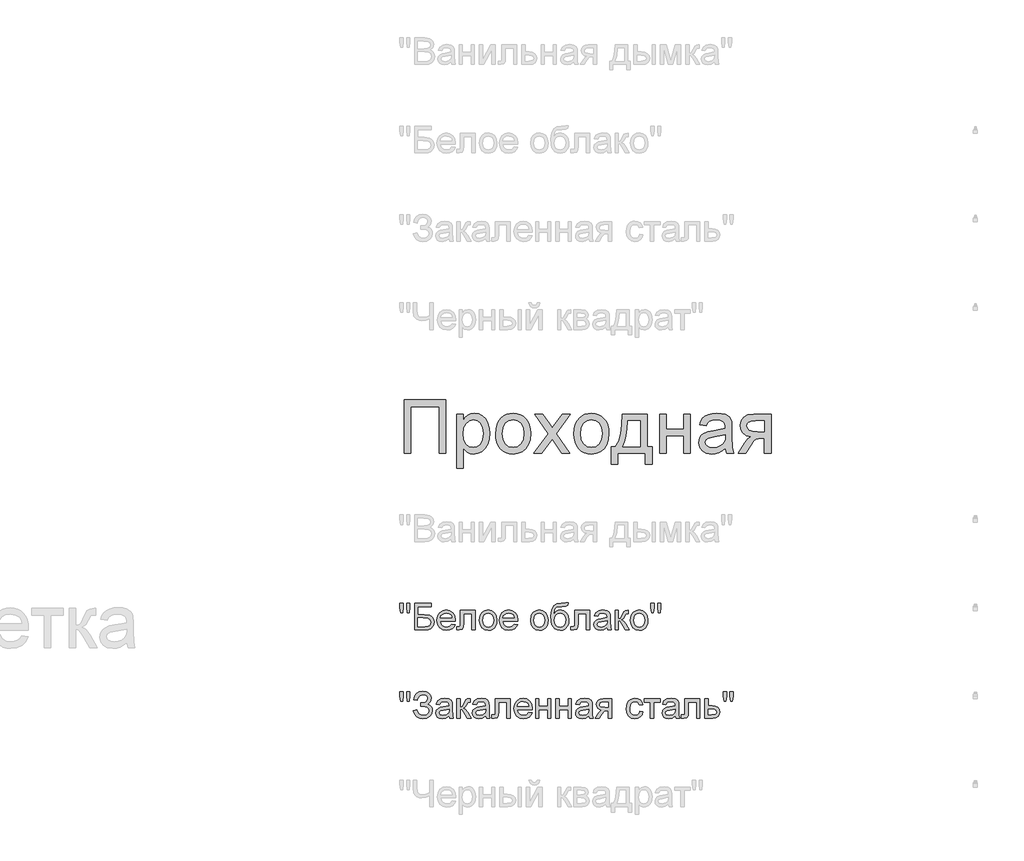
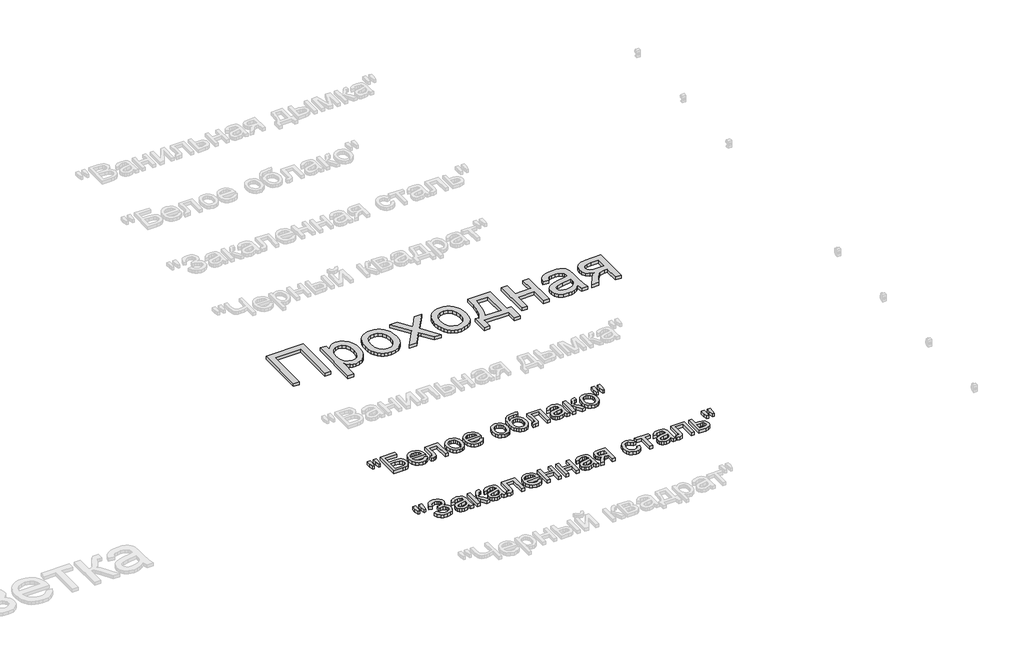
# One storey, part 23 of 168: 3 proxies.
"""IFC4 building model written with IfcOpenShell, lengths in millimetres."""

from ifc_helpers import new_model, si_unit, origin, origin_with_axes, place, context, project, spatial, polyline, outline, extrude, element, save

model = new_model("IFC4")

# Units and contexts
model_context = context("Model", 3, world=origin())
ifc_project = project(units=[si_unit("LENGTHUNIT", "METRE", prefix="MILLI")], contexts=[model_context])

# Site, building, storey
site = spatial("IfcSite", under=ifc_project)
building = spatial("IfcBuilding", under=site)
storey = spatial("IfcBuildingStorey", under=building, Name="Этаж 01", Elevation=0.0)

# Proxies
placement = place(None, origin())
element("IfcBuildingElementProxy", 1, Name="300 мм Arial 2", ObjectType="300 мм Arial 2", at=placement, inside=storey, context=model_context, shape_type="SweptSolid", body=[
    extrude(outline(polyline([(54408.7231967, -53165.4933673), (54644.1676736, -53165.4933673), (54644.1676736, -53466.8622977), (54606.4965573, -53466.8622977), (54606.4965573, -53203.1644836), (54446.394313, -53203.1644836), (54446.394313, -53466.8622977), (54408.7231967, -53466.8622977), (54408.7231967, -53165.4933673)])), origin_with_axes(), (0.0, 0.0, 1.0), 20.0),
    extrude(outline(polyline([(54705.3832376, -53551.6223094), (54705.3832376, -53245.5444894), (54743.0543539, -53245.5444894), (54743.0543539, -53282.4798418), (54755.3416125, -53264.2604859), (54769.1003992, -53251.2466604), (54785.1400541, -53243.438365), (54804.2699179, -53240.8355999), (54829.7457461, -53244.4776316), (54852.0210009, -53255.4037269), (54870.1575832, -53272.9516981), (54883.2173941, -53296.4593576), (54891.1084629, -53324.2160541), (54893.7388191, -53354.5111364), (54890.768172, -53386.7284021), (54881.8562307, -53415.5427594), (54867.2881037, -53439.4918773), (54847.3488995, -53457.1134249), (54824.1263486, -53467.9567467), (54799.7081812, -53471.5711873), (54782.3901362, -53469.1523632), (54766.9298954, -53461.8958908), (54753.6953406, -53450.9422044), (54743.0543539, -53437.4317381), (54743.0543539, -53551.6223094), (54705.3832376, -53551.6223094)]), holes=[polyline([(54743.0543539, -53357.9692272), (54747.128647, -53391.7407943), (54759.3515263, -53415.3588184), (54777.3869411, -53429.2647578), (54798.8988408, -53433.900071), (54820.7602283, -53429.0992109), (54839.2554956, -53414.6966308), (54851.864651, -53390.214084), (54856.0677028, -53355.173324), (54851.9658186, -53321.5856978), (54839.6601658, -53297.63658), (54821.6523422, -53283.2891821), (54800.4439451, -53278.5067162), (54779.1527747, -53283.5926848), (54760.4551723, -53298.8505905), (54747.4045585, -53323.8021869), (54743.0543539, -53357.9692272)])]), origin_with_axes(), (0.0, 0.0, 1.0), 20.0),
    extrude(outline(polyline([(54926.7010459, -53356.2033936), (54928.7381924, -53327.5407876), (54934.8496321, -53302.8421102), (54945.0353648, -53282.1073612), (54959.2953907, -53265.3365408), (54973.6519855, -53254.6173791), (54989.4985025, -53246.9608351), (55006.8349415, -53242.3669087), (55025.6613026, -53240.8355999), (55046.4443361, -53242.7003018), (55065.2362082, -53248.2944073), (55082.0369191, -53257.6179167), (55096.8464687, -53270.6708297), (55108.9336915, -53287.0116881), (55117.567422, -53306.1990334), (55122.7476604, -53328.2328656), (55124.4744065, -53353.1131848), (55121.4209859, -53391.1705772), (55112.2607243, -53420.1412843), (55097.2603359, -53441.837125), (55076.6865353, -53458.069918), (55052.2499738, -53468.19587), (55025.6613026, -53471.5711873), (55004.5747665, -53469.7133832), (54985.6081504, -53464.139971), (54968.7614542, -53454.8509506), (54954.0346781, -53441.8463221), (54942.076214, -53425.3468146), (54933.5344539, -53405.5731573), (54928.4093979, -53382.5253503), (54926.7010459, -53356.2033936)]), holes=[polyline([(54964.3721622, -53356.1298172), (54968.7315638, -53390.2232811), (54981.8097688, -53414.5126898), (55001.4914555, -53429.0532257), (55025.6613026, -53433.900071), (55049.7207851, -53429.0256345), (55069.3656836, -53414.4023252), (55082.4438885, -53389.7910197), (55086.8032902, -53354.9525948), (55082.4162974, -53321.8524123), (55069.255319, -53297.8940973), (55049.5828293, -53283.3535615), (55025.6613026, -53278.5067162), (55001.4914555, -53283.3351674), (54981.8097688, -53297.820521), (54968.7315638, -53322.0547474), (54964.3721622, -53356.1298172)])]), origin_with_axes(), (0.0, 0.0, 1.0), 20.0),
    extrude(outline(polyline([(55143.3099646, -53466.8622977), (55223.8025452, -53355.6147824), (55148.0188542, -53245.5444894), (55193.341916, -53245.5444894), (55229.9093863, -53298.5194967), (55246.9791109, -53323.5354724), (55261.7679671, -53303.0812335), (55303.4122089, -53245.5444894), (55348.7352708, -53245.5444894), (55269.125607, -53355.6147824), (55345.7922148, -53466.8622977), (55300.469153, -53466.8622977), (55254.3367508, -53399.981351), (55245.8754649, -53387.7676688), (55188.6330265, -53466.8622977), (55143.3099646, -53466.8622977)])), origin_with_axes(), (0.0, 0.0, 1.0), 20.0),
    extrude(outline(polyline([(55369.3366625, -53356.2033936), (55371.373809, -53327.5407876), (55377.4852487, -53302.8421102), (55387.6709814, -53282.1073612), (55401.9310073, -53265.3365408), (55416.2876021, -53254.6173791), (55432.1341191, -53246.9608351), (55449.4705581, -53242.3669087), (55468.2969192, -53240.8355999), (55489.0799527, -53242.7003018), (55507.8718248, -53248.2944073), (55524.6725357, -53257.6179167), (55539.4820853, -53270.6708297), (55551.5693081, -53287.0116881), (55560.2030386, -53306.1990334), (55565.383277, -53328.2328656), (55567.1100231, -53353.1131848), (55564.0566025, -53391.1705772), (55554.8963409, -53420.1412843), (55539.8959525, -53441.837125), (55519.3221519, -53458.069918), (55494.8855904, -53468.19587), (55468.2969192, -53471.5711873), (55447.2103831, -53469.7133832), (55428.243767, -53464.139971), (55411.3970708, -53454.8509506), (55396.6702947, -53441.8463221), (55384.7118306, -53425.3468146), (55376.1700705, -53405.5731573), (55371.0450145, -53382.5253503), (55369.3366625, -53356.2033936)]), holes=[polyline([(55407.0077788, -53356.1298172), (55411.3671804, -53390.2232811), (55424.4453854, -53414.5126898), (55444.1270721, -53429.0532257), (55468.2969192, -53433.900071), (55492.3564017, -53429.0256345), (55512.0013002, -53414.4023252), (55525.0795051, -53389.7910197), (55529.4389068, -53354.9525948), (55525.051914, -53321.8524123), (55511.8909356, -53297.8940973), (55492.2184459, -53283.3535615), (55468.2969192, -53278.5067162), (55444.1270721, -53283.3351674), (55424.4453854, -53297.820521), (55411.3671804, -53322.0547474), (55407.0077788, -53356.1298172)])]), origin_with_axes(), (0.0, 0.0, 1.0), 20.0),
    extrude(outline(polyline([(55642.4522557, -53245.5444894), (55783.7189419, -53245.5444894), (55783.7189419, -53429.1911814), (55811.9722791, -53429.1911814), (55811.9722791, -53528.0778617), (55774.3011628, -53528.0778617), (55774.3011628, -53466.8622977), (55618.907808, -53466.8622977), (55618.907808, -53528.0778617), (55581.2366917, -53528.0778617), (55581.2366917, -53429.1911814), (55604.7811394, -53429.1911814), (55621.8968492, -53398.2615027), (55633.8806052, -53357.3438278), (55640.7324074, -53306.4381567), (55642.4522557, -53245.5444894)]), holes=[polyline([(55675.4144825, -53283.2156057), (55672.3242737, -53329.3388109), (55666.5853146, -53369.0424752), (55658.1976051, -53402.3265987), (55647.1611452, -53429.1911814), (55746.0478255, -53429.1911814), (55746.0478255, -53283.2156057), (55675.4144825, -53283.2156057)])]), origin_with_axes(), (0.0, 0.0, 1.0), 20.0),
    extrude(outline(polyline([(55854.3522849, -53245.5444894), (55892.0234012, -53245.5444894), (55892.0234012, -53330.3045011), (55990.9100815, -53330.3045011), (55990.9100815, -53245.5444894), (56028.5811978, -53245.5444894), (56028.5811978, -53466.8622977), (55990.9100815, -53466.8622977), (55990.9100815, -53367.9756174), (55892.0234012, -53367.9756174), (55892.0234012, -53466.8622977), (55854.3522849, -53466.8622977), (55854.3522849, -53245.5444894)])), origin_with_axes(), (0.0, 0.0, 1.0), 20.0),
    extrude(outline(polyline([(56226.3545584, -53438.6089605), (56208.3559318, -53454.0416102), (56189.8238763, -53464.139971), (56170.3353276, -53469.7133832), (56149.4672215, -53471.5711873), (56117.9857197, -53467.101421), (56094.7631688, -53453.6921223), (56080.4433621, -53433.3298539), (56075.6700932, -53408.0011785), (56077.472715, -53392.3845878), (56082.8805803, -53378.2027369), (56091.2223046, -53366.0626311), (56101.8265031, -53356.5712756), (56128.2036421, -53344.2104405), (56160.7979869, -53338.5450578), (56199.3152318, -53332.5853695), (56226.1338293, -53325.5956116), (56226.3545584, -53317.2079021), (56223.7609904, -53300.3956949), (56215.9802862, -53289.3960233), (56198.5794678, -53281.229043), (56174.3360443, -53278.5067162), (56151.8952426, -53280.318535), (56136.2234696, -53285.7539915), (56125.5364977, -53295.806367), (56118.0500991, -53311.468943), (56080.3789828, -53306.7600534), (56086.9180852, -53286.1586617), (56096.6761551, -53269.9718539), (56110.5637005, -53257.5926248), (56129.4912291, -53248.413969), (56152.6402037, -53242.7301922), (56179.1920867, -53240.8355999), (56204.6587178, -53242.509463), (56224.8462423, -53247.5310522), (56240.0673598, -53255.0818302), (56250.6347701, -53264.3432594), (56257.6429221, -53275.7935865), (56262.1862648, -53289.9110581), (56264.0256748, -53322.8732848), (56264.0256748, -53369.741451), (56265.9386611, -53435.1876579), (56273.4434538, -53466.8622977), (56235.7723375, -53466.8622977), (56226.3545584, -53438.6089605)]), holes=[polyline([(56226.3545584, -53363.2667279), (56165.5804528, -53374.8182225), (56133.1700491, -53380.9250637), (56118.4915575, -53390.8578775), (56113.3412095, -53405.3524281), (56116.1463097, -53416.5544349), (56124.5616104, -53425.7330907), (56138.4031705, -53431.8583259), (56157.487049, -53433.900071), (56177.7205587, -53431.6467937), (56195.5996237, -53424.8869621), (56210.0941743, -53414.9265571), (56220.1741409, -53403.0715598), (56224.6439072, -53390.8578775), (56226.1338293, -53373.9353058), (56226.3545584, -53363.2667279)])]), origin_with_axes(), (0.0, 0.0, 1.0), 20.0),
    extrude(outline(polyline([(56485.3434831, -53245.5444894), (56485.3434831, -53466.8622977), (56447.6723667, -53466.8622977), (56447.6723667, -53382.102286), (56427.1445514, -53382.102286), (56399.1855198, -53386.884752), (56388.0203012, -53397.3142065), (56372.9187453, -53419.0376384), (56342.8995745, -53466.8622977), (56299.3423463, -53466.8622977), (56337.1606154, -53406.3824977), (56353.862458, -53384.67746), (56369.2399254, -53375.0389517), (56343.4881857, -53367.1478829), (56325.3883916, -53352.1566916), (56314.6830255, -53332.2174875), (56311.1145701, -53309.4823802), (56315.9890066, -53283.6938523), (56330.6123159, -53263.2764016), (56354.4694633, -53249.9774675), (56387.0454139, -53245.5444894), (56485.3434831, -53245.5444894)]), holes=[polyline([(56447.6723667, -53283.2156057), (56398.0082974, -53283.2156057), (56372.3577253, -53285.3953066), (56357.7987953, -53291.934409), (56351.0389637, -53301.3981734), (56348.7856864, -53312.3518598), (56352.1058215, -53326.7084546), (56362.0662265, -53336.6688596), (56380.4695233, -53342.4905922), (56409.1183337, -53344.4311697), (56447.6723667, -53344.4311697), (56447.6723667, -53283.2156057)])]), origin_with_axes(), (0.0, 0.0, 1.0), 20.0),
])
element("IfcBuildingElementProxy", 2, Name="150", ObjectType="150", at=placement, inside=storey, context=model_context, shape_type="SweptSolid", body=[
    extrude(outline(polyline([(54389.7772739, -54370.3300622), (54385.178749, -54341.2305964), (54385.178749, -54316.1778325), (54404.0143071, -54316.1778325), (54404.0143071, -54341.2305964), (54399.8940288, -54370.3300622), (54389.7772739, -54370.3300622)])), origin_with_axes(), (0.0, 0.0, 1.0), 20.0),
    extrude(outline(polyline([(54427.3380256, -54370.3300622), (54422.8498653, -54341.2305964), (54422.8498653, -54316.1778325), (54441.6854234, -54316.1778325), (54441.6854234, -54341.2305964), (54437.2708395, -54370.3300622), (54427.3380256, -54370.3300622)])), origin_with_axes(), (0.0, 0.0, 1.0), 20.0),
    extrude(outline(polyline([(54467.5843159, -54316.1778325), (54561.7621067, -54316.1778325), (54561.7621067, -54335.0133907), (54486.4198741, -54335.0133907), (54486.4198741, -54379.7478413), (54521.6997574, -54379.7478413), (54552.785786, -54383.573814), (54563.1876494, -54389.101241), (54571.2902503, -54398.0315764), (54576.5049776, -54409.5278888), (54578.2432201, -54422.7532465), (54573.2952072, -54444.2191609), (54558.5247451, -54460.5347274), (54545.2534021, -54465.2804052), (54525.0842718, -54466.8622977), (54467.5843159, -54466.8622977), (54467.5843159, -54316.1778325)]), holes=[polyline([(54486.4198741, -54448.0267396), (54526.7765289, -54448.0267396), (54541.0411533, -54446.4724382), (54551.2406816, -54441.8095339), (54557.3659168, -54434.0380267), (54559.4076619, -54423.1579167), (54554.7355606, -54408.4058487), (54541.730932, -54400.533174), (54513.3488361, -54398.5833994), (54486.4198741, -54398.5833994), (54486.4198741, -54448.0267396)])]), origin_with_axes(), (0.0, 0.0, 1.0), 20.0),
    extrude(outline(polyline([(54679.2636159, -54433.900071), (54697.7312921, -54436.2545157), (54691.0772265, -54450.1696522), (54680.4592324, -54460.5715156), (54666.1164331, -54467.0554358), (54648.2879519, -54469.2167425), (54626.1874411, -54465.4873388), (54609.1820959, -54454.2991276), (54598.338774, -54436.3786759), (54594.7243334, -54412.4525506), (54598.3755622, -54387.7216835), (54609.3292486, -54369.2264162), (54626.1046676, -54357.6933157), (54647.2210942, -54353.8489488), (54667.6799316, -54357.6841186), (54684.0276878, -54369.189628), (54694.7468494, -54387.6481071), (54698.3199033, -54412.342186), (54698.2095387, -54417.4189576), (54613.5598916, -54417.4189576), (54616.8202458, -54431.518035), (54624.3940164, -54441.8831103), (54635.3247101, -54448.2566658), (54648.6558339, -54450.3811843), (54667.1235101, -54446.444847), (54679.2636159, -54433.900071)]), holes=[polyline([(54613.5598916, -54398.5833994), (54679.4843451, -54398.5833994), (54676.9367623, -54388.6321915), (54671.9427642, -54381.5136749), (54660.9614867, -54374.8917989), (54647.1475178, -54372.684507), (54634.4509904, -54374.445742), (54623.952558, -54379.7294472), (54616.6546989, -54387.9654053), (54613.5598916, -54398.5833994)])]), origin_with_axes(), (0.0, 0.0, 1.0), 20.0),
    extrude(outline(polyline([(54726.5732405, -54356.2033936), (54811.3332522, -54356.2033936), (54811.3332522, -54466.7519331), (54792.497694, -54466.7519331), (54792.497694, -54375.0389517), (54745.4087987, -54375.0389517), (54745.4087987, -54427.830018), (54744.1396058, -54452.1838061), (54737.168242, -54462.4661079), (54720.6871286, -54466.8622977), (54705.3832376, -54465.9058045), (54705.3832376, -54448.0267396), (54713.8077353, -54448.0267396), (54722.3242035, -54446.8679113), (54725.7271119, -54443.1890913), (54726.5732405, -54426.7631603), (54726.5732405, -54356.2033936)])), origin_with_axes(), (0.0, 0.0, 1.0), 20.0),
    extrude(outline(polyline([(54834.8776999, -54411.5328457), (54838.951993, -54384.852204), (54851.1748723, -54366.0994193), (54866.2764282, -54356.9115664), (54884.3578282, -54353.8489488), (54904.1452811, -54357.5783525), (54919.9504113, -54368.7665637), (54930.310888, -54386.5306656), (54933.7643802, -54409.9877413), (54932.2376699, -54429.0164375), (54927.6575391, -54443.501791), (54920.1573449, -54454.3497114), (54909.8704446, -54462.4661079), (54897.6521638, -54467.5290839), (54884.3578282, -54469.2167425), (54864.3312521, -54465.5011344), (54848.544516, -54454.3543099), (54838.2944039, -54436.2177275), (54834.8776999, -54411.5328457)]), holes=[polyline([(54853.713258, -54411.4960575), (54855.8929589, -54428.5427894), (54862.4320613, -54440.6874938), (54872.2729047, -54447.9577617), (54884.3578282, -54450.3811843), (54896.3875695, -54447.9439661), (54906.2100188, -54440.6323115), (54912.7491212, -54428.3266587), (54914.928822, -54410.9074463), (54912.7353256, -54394.357355), (54906.1548365, -54382.3781975), (54896.3185916, -54375.1079296), (54884.3578282, -54372.684507), (54872.2729047, -54375.0987326), (54862.4320613, -54382.3414093), (54855.8929589, -54394.4585226), (54853.713258, -54411.4960575)])]), origin_with_axes(), (0.0, 0.0, 1.0), 20.0),
    extrude(outline(polyline([(55032.4303313, -54433.900071), (55050.8980075, -54436.2545157), (55044.2439419, -54450.1696522), (55033.6259478, -54460.5715156), (55019.2831485, -54467.0554358), (55001.4546673, -54469.2167425), (54979.3541564, -54465.4873388), (54962.3488112, -54454.2991276), (54951.5054894, -54436.3786759), (54947.8910488, -54412.4525506), (54951.5422776, -54387.7216835), (54962.495964, -54369.2264162), (54979.271383, -54357.6933157), (55000.3878095, -54353.8489488), (55020.846647, -54357.6841186), (55037.1944031, -54369.189628), (55047.9135648, -54387.6481071), (55051.4866187, -54412.342186), (55051.3762541, -54417.4189576), (54966.726607, -54417.4189576), (54969.9869611, -54431.518035), (54977.5607317, -54441.8831103), (54988.4914255, -54448.2566658), (55001.8225493, -54450.3811843), (55020.2902255, -54446.444847), (55032.4303313, -54433.900071)]), holes=[polyline([(54966.726607, -54398.5833994), (55032.6510605, -54398.5833994), (55030.1034777, -54388.6321915), (55025.1094796, -54381.5136749), (55014.128202, -54374.8917989), (55000.3142331, -54372.684507), (54987.6177058, -54374.445742), (54977.1192733, -54379.7294472), (54969.8214142, -54387.9654053), (54966.726607, -54398.5833994)])]), origin_with_axes(), (0.0, 0.0, 1.0), 20.0),
    extrude(outline(polyline([(55124.4744065, -54411.5328457), (55128.5486996, -54384.852204), (55140.7715789, -54366.0994193), (55155.8731348, -54356.9115664), (55173.9545348, -54353.8489488), (55193.7419877, -54357.5783525), (55209.5471179, -54368.7665637), (55219.9075946, -54386.5306656), (55223.3610868, -54409.9877413), (55221.8343765, -54429.0164375), (55217.2542457, -54443.501791), (55209.7540515, -54454.3497114), (55199.4671512, -54462.4661079), (55187.2488704, -54467.5290839), (55173.9545348, -54469.2167425), (55153.9279587, -54465.5011344), (55138.1412226, -54454.3543099), (55127.8911105, -54436.2177275), (55124.4744065, -54411.5328457)]), holes=[polyline([(55143.3099646, -54411.4960575), (55145.4896655, -54428.5427894), (55152.0287679, -54440.6874938), (55161.8696113, -54447.9577617), (55173.9545348, -54450.3811843), (55185.9842761, -54447.9439661), (55195.8067254, -54440.6323115), (55202.3458278, -54428.3266587), (55204.5255286, -54410.9074463), (55202.3320323, -54394.357355), (55195.7515431, -54382.3781975), (55185.9152982, -54375.1079296), (55173.9545348, -54372.684507), (55161.8696113, -54375.0987326), (55152.0287679, -54382.3414093), (55145.4896655, -54394.4585226), (55143.3099646, -54411.4960575)])]), origin_with_axes(), (0.0, 0.0, 1.0), 20.0),
    extrude(outline(polyline([(55322.2477671, -54313.8233877), (55338.7288805, -54313.8233877), (55333.8728382, -54328.5202734), (55324.2711181, -54333.8361683), (55301.204917, -54335.0133907), (55270.1372825, -54339.3543982), (55263.0095688, -54345.0013868), (55258.2179058, -54353.2603376), (55254.189598, -54377.8716431), (55270.5051645, -54359.8454253), (55280.4241828, -54355.3480679), (55291.5296205, -54353.8489488), (55311.1285338, -54357.661126), (55327.030233, -54369.0976575), (55337.5700522, -54387.0365033), (55341.0833253, -54410.3556233), (55339.3404843, -54428.3358558), (55334.1119614, -54442.766027), (55317.5756658, -54462.3189551), (55306.2816885, -54467.4922957), (55291.5296205, -54469.2167425), (55274.5288738, -54466.995655), (55261.7863612, -54460.3323923), (55252.4099688, -54450.2064404), (55245.5075829, -54437.597285), (55241.2585459, -54418.6099755), (55239.8422002, -54389.3495614), (55243.4152541, -54353.2097538), (55254.1344157, -54331.1690238), (55272.2663995, -54319.9256303), (55298.07792, -54316.1778325), (55319.0471937, -54315.7547682), (55322.2477671, -54313.8233877)]), holes=[polyline([(55322.2477671, -54409.7670121), (55320.206022, -54394.9459662), (55314.0807868, -54383.0771733), (55304.2399434, -54375.2826736), (55291.0513739, -54372.684507), (55277.3017843, -54375.4298264), (55267.102256, -54383.6657845), (55260.7838828, -54396.4910706), (55258.6777583, -54413.0043736), (55261.004612, -54429.011839), (55267.9851728, -54440.7610702), (55278.3778392, -54447.9761558), (55290.9410093, -54450.3811843), (55303.5685588, -54447.5990768), (55313.565752, -54439.252754), (55320.0772633, -54426.3171033), (55322.2477671, -54409.7670121)])]), origin_with_axes(), (0.0, 0.0, 1.0), 20.0),
    extrude(outline(polyline([(55374.045552, -54356.2033936), (55458.8055637, -54356.2033936), (55458.8055637, -54466.7519331), (55439.9700056, -54466.7519331), (55439.9700056, -54375.0389517), (55392.8811102, -54375.0389517), (55392.8811102, -54427.830018), (55391.6119173, -54452.1838061), (55384.6405535, -54462.4661079), (55368.1594401, -54466.8622977), (55352.8555491, -54465.9058045), (55352.8555491, -54448.0267396), (55361.2800468, -54448.0267396), (55369.796515, -54446.8679113), (55373.1994234, -54443.1890913), (55374.045552, -54426.7631603), (55374.045552, -54356.2033936)])), origin_with_axes(), (0.0, 0.0, 1.0), 20.0),
    extrude(outline(polyline([(55557.692244, -54452.7356291), (55539.426903, -54465.5011344), (55519.2485755, -54469.2167425), (55503.5078247, -54466.9818594), (55491.8965492, -54460.27721), (55484.7366458, -54450.0960758), (55482.3500114, -54437.4317381), (55485.955255, -54422.5325173), (55495.4282163, -54411.7167867), (55508.6167859, -54405.5363691), (55524.9139582, -54402.7036778), (55557.5818794, -54396.2289547), (55557.692244, -54392.0350999), (55556.39546, -54383.6289963), (55552.5051079, -54378.1291605), (55543.8046987, -54374.0456704), (55531.682987, -54372.684507), (55512.6266996, -54376.3081446), (55503.5400143, -54389.1656204), (55484.7044562, -54386.8111756), (55492.8530424, -54368.4170758), (55509.2605794, -54357.6381334), (55534.1110081, -54353.8489488), (55556.9380859, -54357.196675), (55569.8323499, -54365.6027786), (55575.6080972, -54378.3866779), (55576.5278022, -54394.8677913), (55576.5278022, -54418.3018744), (55577.4842954, -54451.0249778), (55581.2366917, -54466.8622977), (55562.4011336, -54466.8622977), (55557.692244, -54452.7356291)]), holes=[polyline([(55557.692244, -54415.0645128), (55527.3051912, -54420.8402601), (55511.0999893, -54423.8936807), (55503.7607435, -54428.8600876), (55501.1855696, -54436.1073629), (55506.79577, -54446.2976942), (55523.2584893, -54450.3811843), (55542.3147766, -54445.8746299), (55554.6020353, -54434.9669288), (55557.5818794, -54420.3988017), (55557.692244, -54415.0645128)])]), origin_with_axes(), (0.0, 0.0, 1.0), 20.0),
    extrude(outline(polyline([(55602.4266946, -54356.2033936), (55621.2622528, -54356.2033936), (55621.2622528, -54403.292289), (55633.8806052, -54399.9077746), (55644.2180893, -54380.1892997), (55652.8081339, -54363.1747574), (55660.386503, -54357.6381334), (55674.1636837, -54356.2033936), (55677.7689272, -54356.2033936), (55677.7689272, -54375.1493163), (55672.6921557, -54375.0389517), (55663.4951058, -54377.0255145), (55657.0203827, -54389.4231377), (55649.4236195, -54402.8324365), (55638.7734358, -54409.3991301), (55650.6560242, -54416.7291788), (55662.3178834, -54432.1710256), (55682.4778168, -54466.8622977), (55661.0670847, -54466.8622977), (55641.3118215, -54432.9067896), (55631.3790077, -54418.5409977), (55621.2622528, -54415.0645128), (55621.2622528, -54466.8622977), (55602.4266946, -54466.8622977), (55602.4266946, -54356.2033936)])), origin_with_axes(), (0.0, 0.0, 1.0), 20.0),
    extrude(outline(polyline([(55689.5411511, -54411.5328457), (55693.6154442, -54384.852204), (55705.8383235, -54366.0994193), (55720.9398794, -54356.9115664), (55739.0212794, -54353.8489488), (55758.8087323, -54357.5783525), (55774.6138625, -54368.7665637), (55784.9743392, -54386.5306656), (55788.4278314, -54409.9877413), (55786.9011211, -54429.0164375), (55782.3209903, -54443.501791), (55774.8207961, -54454.3497114), (55764.5338958, -54462.4661079), (55752.315615, -54467.5290839), (55739.0212794, -54469.2167425), (55718.9947033, -54465.5011344), (55703.2079672, -54454.3543099), (55692.9578551, -54436.2177275), (55689.5411511, -54411.5328457)]), holes=[polyline([(55708.3767092, -54411.4960575), (55710.5564101, -54428.5427894), (55717.0955125, -54440.6874938), (55726.9363559, -54447.9577617), (55739.0212794, -54450.3811843), (55751.0510207, -54447.9439661), (55760.87347, -54440.6323115), (55767.4125724, -54428.3266587), (55769.5922732, -54410.9074463), (55767.3987768, -54394.357355), (55760.8182877, -54382.3781975), (55750.9820428, -54375.1079296), (55739.0212794, -54372.684507), (55726.9363559, -54375.0987326), (55717.0955125, -54382.3414093), (55710.5564101, -54394.4585226), (55708.3767092, -54411.4960575)])]), origin_with_axes(), (0.0, 0.0, 1.0), 20.0),
    extrude(outline(polyline([(55809.5074697, -54370.3300622), (55804.9089448, -54341.2305964), (55804.9089448, -54316.1778325), (55823.7445029, -54316.1778325), (55823.7445029, -54341.2305964), (55819.6242246, -54370.3300622), (55809.5074697, -54370.3300622)])), origin_with_axes(), (0.0, 0.0, 1.0), 20.0),
    extrude(outline(polyline([(55847.0682214, -54370.3300622), (55842.5800611, -54341.2305964), (55842.5800611, -54316.1778325), (55861.4156192, -54316.1778325), (55861.4156192, -54341.2305964), (55857.0010353, -54370.3300622), (55847.0682214, -54370.3300622)])), origin_with_axes(), (0.0, 0.0, 1.0), 20.0),
])
element("IfcBuildingElementProxy", 3, Name="150", ObjectType="150", at=placement, inside=storey, context=model_context, shape_type="SweptSolid", body=[
    extrude(outline(polyline([(54389.7772739, -54870.3300622), (54385.178749, -54841.2305964), (54385.178749, -54816.1778325), (54404.0143071, -54816.1778325), (54404.0143071, -54841.2305964), (54399.8940288, -54870.3300622), (54389.7772739, -54870.3300622)])), origin_with_axes(), (0.0, 0.0, 1.0), 20.0),
    extrude(outline(polyline([(54427.3380256, -54870.3300622), (54422.8498653, -54841.2305964), (54422.8498653, -54816.1778325), (54441.6854234, -54816.1778325), (54441.6854234, -54841.2305964), (54437.2708395, -54870.3300622), (54427.3380256, -54870.3300622)])), origin_with_axes(), (0.0, 0.0, 1.0), 20.0),
    extrude(outline(polyline([(54460.5209816, -54924.4822919), (54479.3565398, -54919.7734024), (54490.9264285, -54940.172459), (54501.8571223, -54947.829003), (54515.8504337, -54950.3811843), (54530.0276861, -54948.4635995), (54540.8480152, -54942.7108448), (54547.7044159, -54934.2449603), (54549.9898828, -54924.1879863), (54547.4928838, -54913.6527657), (54540.0018867, -54905.517975), (54528.2066702, -54900.3170433), (54512.7970131, -54898.5833994), (54502.9009874, -54898.5833994), (54502.9009874, -54879.7478413), (54524.2197491, -54878.221131), (54537.2611658, -54870.4220327), (54542.9265485, -54856.1666054), (54541.0411533, -54847.2960508), (54535.3849676, -54839.6670979), (54526.5098145, -54834.4109839), (54514.9675169, -54832.6589459), (54495.7456826, -54838.0484171), (54484.746011, -54852.3406326), (54481.7109845, -54865.6211727), (54462.8754264, -54860.9122831), (54468.7270494, -54840.3108914), (54479.3289486, -54825.5956116), (54494.6811241, -54816.7664437), (54514.7835759, -54813.8233877), (54534.1755556, -54816.8814068), (54549.0885719, -54826.0554641), (54558.593723, -54839.3222085), (54561.7621067, -54854.6582892), (54556.8324879, -54873.3007093), (54542.0436317, -54887.2158458), (54552.5190715, -54892.0396984), (54561.1367073, -54900.1836861), (54566.9032576, -54910.948833), (54568.825441, -54923.6361633), (54565.137424, -54941.4738415), (54554.073373, -54956.1385376), (54536.9208749, -54965.9471913), (54514.9675169, -54969.2167425), (54495.8652443, -54966.4208393), (54480.4233975, -54958.0331298), (54468.6419766, -54944.053614), (54460.5209816, -54924.4822919)])), origin_with_axes(), (0.0, 0.0, 1.0), 20.0),
    extrude(outline(polyline([(54663.0032317, -54952.7356291), (54644.7378907, -54965.5011344), (54624.5595633, -54969.2167425), (54608.8188124, -54966.9818594), (54597.2075369, -54960.27721), (54590.0476336, -54950.0960758), (54587.6609991, -54937.4317381), (54591.2662427, -54922.5325173), (54600.7392041, -54911.7167867), (54613.9277736, -54905.5363691), (54630.224946, -54902.7036778), (54662.8928671, -54896.2289547), (54663.0032317, -54892.0350999), (54661.7064477, -54883.6289963), (54657.8160956, -54878.1291605), (54649.1156864, -54874.0456704), (54636.9939747, -54872.684507), (54617.9376873, -54876.3081446), (54608.8510021, -54889.1656204), (54590.0154439, -54886.8111756), (54598.1640301, -54868.4170758), (54614.5715671, -54857.6381334), (54639.4219959, -54853.8489488), (54662.2490737, -54857.196675), (54675.1433376, -54865.6027786), (54680.9190849, -54878.3866779), (54681.8387899, -54894.8677913), (54681.8387899, -54918.3018744), (54682.7952831, -54951.0249778), (54686.5476794, -54966.8622977), (54667.7121213, -54966.8622977), (54663.0032317, -54952.7356291)]), holes=[polyline([(54663.0032317, -54915.0645128), (54632.6161789, -54920.8402601), (54616.4109771, -54923.8936807), (54609.0717313, -54928.8600876), (54606.4965573, -54936.1073629), (54612.1067577, -54946.2976942), (54628.569477, -54950.3811843), (54647.6257643, -54945.8746299), (54659.913023, -54934.9669288), (54662.8928671, -54920.3988017), (54663.0032317, -54915.0645128)])]), origin_with_axes(), (0.0, 0.0, 1.0), 20.0),
    extrude(outline(polyline([(54707.7376824, -54856.2033936), (54726.5732405, -54856.2033936), (54726.5732405, -54903.292289), (54739.1915929, -54899.9077746), (54749.529077, -54880.1892997), (54758.1191216, -54863.1747574), (54765.6974907, -54857.6381334), (54779.4746714, -54856.2033936), (54783.079915, -54856.2033936), (54783.079915, -54875.1493163), (54778.0031434, -54875.0389517), (54768.8060936, -54877.0255145), (54762.3313704, -54889.4231377), (54754.7346072, -54902.8324365), (54744.0844235, -54909.3991301), (54755.9670119, -54916.7291788), (54767.6288712, -54932.1710256), (54787.7888045, -54966.8622977), (54766.3780724, -54966.8622977), (54746.6228092, -54932.9067896), (54736.6899954, -54918.5409977), (54726.5732405, -54915.0645128), (54726.5732405, -54966.8622977), (54707.7376824, -54966.8622977), (54707.7376824, -54856.2033936)])), origin_with_axes(), (0.0, 0.0, 1.0), 20.0),
    extrude(outline(polyline([(54870.1943714, -54952.7356291), (54851.9290304, -54965.5011344), (54831.7507029, -54969.2167425), (54816.0099521, -54966.9818594), (54804.3986766, -54960.27721), (54797.2387733, -54950.0960758), (54794.8521388, -54937.4317381), (54798.4573824, -54922.5325173), (54807.9303437, -54911.7167867), (54821.1189133, -54905.5363691), (54837.4160857, -54902.7036778), (54870.0840068, -54896.2289547), (54870.1943714, -54892.0350999), (54868.8975874, -54883.6289963), (54865.0072353, -54878.1291605), (54856.3068261, -54874.0456704), (54844.1851144, -54872.684507), (54825.128827, -54876.3081446), (54816.0421417, -54889.1656204), (54797.2065836, -54886.8111756), (54805.3551698, -54868.4170758), (54821.7627068, -54857.6381334), (54846.6131355, -54853.8489488), (54869.4402133, -54857.196675), (54882.3344773, -54865.6027786), (54888.1102246, -54878.3866779), (54889.0299296, -54894.8677913), (54889.0299296, -54918.3018744), (54889.9864228, -54951.0249778), (54893.7388191, -54966.8622977), (54874.903261, -54966.8622977), (54870.1943714, -54952.7356291)]), holes=[polyline([(54870.1943714, -54915.0645128), (54839.8073186, -54920.8402601), (54823.6021167, -54923.8936807), (54816.2628709, -54928.8600876), (54813.687697, -54936.1073629), (54819.2978974, -54946.2976942), (54835.7606167, -54950.3811843), (54854.816904, -54945.8746299), (54867.1041627, -54934.9669288), (54870.0840068, -54920.3988017), (54870.1943714, -54915.0645128)])]), origin_with_axes(), (0.0, 0.0, 1.0), 20.0),
    extrude(outline(polyline([(54924.3466011, -54856.2033936), (55009.1066128, -54856.2033936), (55009.1066128, -54966.7519331), (54990.2710547, -54966.7519331), (54990.2710547, -54875.0389517), (54943.1821593, -54875.0389517), (54943.1821593, -54927.830018), (54941.9129664, -54952.1838061), (54934.9416026, -54962.4661079), (54918.4604892, -54966.8622977), (54903.1565982, -54965.9058045), (54903.1565982, -54948.0267396), (54911.5810959, -54948.0267396), (54920.0975641, -54946.8679113), (54923.5004725, -54943.1890913), (54924.3466011, -54926.7631603), (54924.3466011, -54856.2033936)])), origin_with_axes(), (0.0, 0.0, 1.0), 20.0),
    extrude(outline(polyline([(55114.8358982, -54933.900071), (55133.3035744, -54936.2545157), (55126.6495088, -54950.1696522), (55116.0315147, -54960.5715156), (55101.6887154, -54967.0554358), (55083.8602342, -54969.2167425), (55061.7597234, -54965.4873388), (55044.7543781, -54954.2991276), (55033.9110563, -54936.3786759), (55030.2966157, -54912.4525506), (55033.9478445, -54887.7216835), (55044.9015309, -54869.2264162), (55061.6769499, -54857.6933157), (55082.7933764, -54853.8489488), (55103.2522139, -54857.6841186), (55119.5999701, -54869.189628), (55130.3191317, -54887.6481071), (55133.8921856, -54912.342186), (55133.781821, -54917.4189576), (55049.1321739, -54917.4189576), (55052.3925281, -54931.518035), (55059.9662986, -54941.8831103), (55070.8969924, -54948.2566658), (55084.2281162, -54950.3811843), (55102.6957924, -54946.444847), (55114.8358982, -54933.900071)]), holes=[polyline([(55049.1321739, -54898.5833994), (55115.0566274, -54898.5833994), (55112.5090446, -54888.6321915), (55107.5150465, -54881.5136749), (55096.533769, -54874.8917989), (55082.7198, -54872.684507), (55070.0232727, -54874.445742), (55059.5248402, -54879.7294472), (55052.2269812, -54887.9654053), (55049.1321739, -54898.5833994)])]), origin_with_axes(), (0.0, 0.0, 1.0), 20.0),
    extrude(outline(polyline([(55152.7277437, -54856.2033936), (55171.5633019, -54856.2033936), (55171.5633019, -54898.5833994), (55221.006642, -54898.5833994), (55221.006642, -54856.2033936), (55239.8422002, -54856.2033936), (55239.8422002, -54966.8622977), (55221.006642, -54966.8622977), (55221.006642, -54917.4189576), (55171.5633019, -54917.4189576), (55171.5633019, -54966.8622977), (55152.7277437, -54966.8622977), (55152.7277437, -54856.2033936)])), origin_with_axes(), (0.0, 0.0, 1.0), 20.0),
    extrude(outline(polyline([(55268.0955374, -54856.2033936), (55286.9310956, -54856.2033936), (55286.9310956, -54898.5833994), (55336.3744357, -54898.5833994), (55336.3744357, -54856.2033936), (55355.2099939, -54856.2033936), (55355.2099939, -54966.8622977), (55336.3744357, -54966.8622977), (55336.3744357, -54917.4189576), (55286.9310956, -54917.4189576), (55286.9310956, -54966.8622977), (55268.0955374, -54966.8622977), (55268.0955374, -54856.2033936)])), origin_with_axes(), (0.0, 0.0, 1.0), 20.0),
    extrude(outline(polyline([(55454.0966742, -54952.7356291), (55435.8313331, -54965.5011344), (55415.6530057, -54969.2167425), (55399.9122548, -54966.9818594), (55388.3009793, -54960.27721), (55381.141076, -54950.0960758), (55378.7544416, -54937.4317381), (55382.3596851, -54922.5325173), (55391.8326465, -54911.7167867), (55405.021216, -54905.5363691), (55421.3183884, -54902.7036778), (55453.9863096, -54896.2289547), (55454.0966742, -54892.0350999), (55452.7998901, -54883.6289963), (55448.909538, -54878.1291605), (55440.2091289, -54874.0456704), (55428.0874171, -54872.684507), (55409.0311298, -54876.3081446), (55399.9444445, -54889.1656204), (55381.1088863, -54886.8111756), (55389.2574725, -54868.4170758), (55405.6650095, -54857.6381334), (55430.5154383, -54853.8489488), (55453.3425161, -54857.196675), (55466.23678, -54865.6027786), (55472.0125273, -54878.3866779), (55472.9322323, -54894.8677913), (55472.9322323, -54918.3018744), (55473.8887255, -54951.0249778), (55477.6411219, -54966.8622977), (55458.8055637, -54966.8622977), (55454.0966742, -54952.7356291)]), holes=[polyline([(55454.0966742, -54915.0645128), (55423.7096214, -54920.8402601), (55407.5044195, -54923.8936807), (55400.1651737, -54928.8600876), (55397.5899997, -54936.1073629), (55403.2002001, -54946.2976942), (55419.6629194, -54950.3811843), (55438.7192068, -54945.8746299), (55451.0064654, -54934.9669288), (55453.9863096, -54920.3988017), (55454.0966742, -54915.0645128)])]), origin_with_axes(), (0.0, 0.0, 1.0), 20.0),
    extrude(outline(polyline([(55583.5911365, -54856.2033936), (55583.5911365, -54966.8622977), (55564.7555783, -54966.8622977), (55564.7555783, -54924.4822919), (55554.4916707, -54924.4822919), (55540.5121548, -54926.8735249), (55527.3787676, -54942.949968), (55512.3691822, -54966.8622977), (55490.5905681, -54966.8622977), (55509.4997026, -54936.6223977), (55517.8506239, -54925.7698789), (55525.5393576, -54920.9506247), (55512.6634878, -54917.0050903), (55503.6135907, -54909.5094947), (55498.2609077, -54899.5398926), (55496.47668, -54888.172339), (55498.9138982, -54875.278075), (55506.2255529, -54865.0693497), (55518.1541266, -54858.4198826), (55534.4421019, -54856.2033936), (55583.5911365, -54856.2033936)]), holes=[polyline([(55564.7555783, -54875.0389517), (55539.9235436, -54875.0389517), (55527.0982576, -54876.1288021), (55519.8187926, -54879.3983534), (55515.3122382, -54889.6070787), (55516.9723057, -54896.7853762), (55521.9525082, -54901.7655787), (55545.4785618, -54905.6467337), (55564.7555783, -54905.6467337), (55564.7555783, -54875.0389517)])]), origin_with_axes(), (0.0, 0.0, 1.0), 20.0),
    extrude(outline(polyline([(55741.338936, -54926.8367367), (55760.1744942, -54929.1911814), (55754.9229787, -54945.9436078), (55745.0545442, -54958.6033469), (55731.4980926, -54966.5633936), (55715.1825262, -54969.2167425), (55695.146753, -54965.5149299), (55679.4795785, -54954.4094922), (55669.3674222, -54936.387873), (55665.9967034, -54911.9375159), (55667.4360417, -54895.1758924), (55671.7540566, -54880.6491522), (55679.019726, -54868.918315), (55689.3020278, -54860.5444011), (55701.603082, -54855.5228119), (55714.9250088, -54853.8489488), (55730.8405036, -54856.1482113), (55743.5646221, -54863.0459987), (55752.6926941, -54874.174429), (55757.8200494, -54889.1656204), (55738.9844912, -54891.5200651), (55730.2472939, -54877.4117906), (55715.0721616, -54872.684507), (55702.899866, -54875.0113606), (55693.2383651, -54881.9919214), (55686.9337874, -54894.0032686), (55684.8322615, -54911.4224811), (55686.8878022, -54929.0762183), (55693.0544241, -54941.1289522), (55702.5411811, -54948.0681263), (55714.5571268, -54950.3811843), (55724.3105982, -54948.9372475), (55732.307433, -54944.605437), (55738.1245671, -54937.2753883), (55741.338936, -54926.8367367)])), origin_with_axes(), (0.0, 0.0, 1.0), 20.0),
    extrude(outline(polyline([(55767.2378285, -54856.2033936), (55856.7067297, -54856.2033936), (55856.7067297, -54875.0389517), (55821.3900582, -54875.0389517), (55821.3900582, -54966.8622977), (55802.5545, -54966.8622977), (55802.5545, -54875.0389517), (55767.2378285, -54875.0389517), (55767.2378285, -54856.2033936)])), origin_with_axes(), (0.0, 0.0, 1.0), 20.0),
    extrude(outline(polyline([(55943.8211862, -54952.7356291), (55925.5558451, -54965.5011344), (55905.3775177, -54969.2167425), (55889.6367668, -54966.9818594), (55878.0254913, -54960.27721), (55870.865588, -54950.0960758), (55868.4789535, -54937.4317381), (55872.0841971, -54922.5325173), (55881.5571585, -54911.7167867), (55894.745728, -54905.5363691), (55911.0429004, -54902.7036778), (55943.7108216, -54896.2289547), (55943.8211862, -54892.0350999), (55942.5244021, -54883.6289963), (55938.63405, -54878.1291605), (55929.9336408, -54874.0456704), (55917.8119291, -54872.684507), (55898.7556417, -54876.3081446), (55889.6689565, -54889.1656204), (55870.8333983, -54886.8111756), (55878.9819845, -54868.4170758), (55895.3895215, -54857.6381334), (55920.2399503, -54853.8489488), (55943.0670281, -54857.196675), (55955.961292, -54865.6027786), (55961.7370393, -54878.3866779), (55962.6567443, -54894.8677913), (55962.6567443, -54918.3018744), (55963.6132375, -54951.0249778), (55967.3656338, -54966.8622977), (55948.5300757, -54966.8622977), (55943.8211862, -54952.7356291)]), holes=[polyline([(55943.8211862, -54915.0645128), (55913.4341334, -54920.8402601), (55897.2289315, -54923.8936807), (55889.8896857, -54928.8600876), (55887.3145117, -54936.1073629), (55892.9247121, -54946.2976942), (55909.3874314, -54950.3811843), (55928.4437188, -54945.8746299), (55940.7309774, -54934.9669288), (55943.7108216, -54920.3988017), (55943.8211862, -54915.0645128)])]), origin_with_axes(), (0.0, 0.0, 1.0), 20.0),
    extrude(outline(polyline([(55997.9734158, -54856.2033936), (56082.7334275, -54856.2033936), (56082.7334275, -54966.7519331), (56063.8978694, -54966.7519331), (56063.8978694, -54875.0389517), (56016.808974, -54875.0389517), (56016.808974, -54927.830018), (56015.5397811, -54952.1838061), (56008.5684173, -54962.4661079), (55992.0873039, -54966.8622977), (55976.7834129, -54965.9058045), (55976.7834129, -54948.0267396), (55985.2079106, -54948.0267396), (55993.7243788, -54946.8679113), (55997.1272873, -54943.1890913), (55997.9734158, -54926.7631603), (55997.9734158, -54856.2033936)])), origin_with_axes(), (0.0, 0.0, 1.0), 20.0),
    extrude(outline(polyline([(56110.9867648, -54856.2033936), (56129.8223229, -54856.2033936), (56129.8223229, -54896.2289547), (56151.5273606, -54896.2289547), (56170.3445247, -54898.587998), (56184.2688582, -54905.6651278), (56192.8772969, -54916.8901272), (56195.7467765, -54931.692779), (56193.3049597, -54945.1710556), (56185.9795095, -54956.5432078), (56173.2829821, -54964.2825252), (56154.727934, -54966.8622977), (56110.9867648, -54966.8622977), (56110.9867648, -54856.2033936)]), holes=[polyline([(56129.8223229, -54948.0267396), (56147.4070823, -54948.0267396), (56170.1237955, -54944.0720081), (56175.2143626, -54939.0090322), (56176.9112183, -54931.7295672), (56171.8896291, -54920.1412843), (56163.8192178, -54916.3337057), (56149.6511625, -54915.0645128), (56129.8223229, -54915.0645128), (56129.8223229, -54948.0267396)])]), origin_with_axes(), (0.0, 0.0, 1.0), 20.0),
    extrude(outline(polyline([(56219.1808595, -54870.3300622), (56214.5823346, -54841.2305964), (56214.5823346, -54816.1778325), (56233.4178928, -54816.1778325), (56233.4178928, -54841.2305964), (56229.2976144, -54870.3300622), (56219.1808595, -54870.3300622)])), origin_with_axes(), (0.0, 0.0, 1.0), 20.0),
    extrude(outline(polyline([(56256.7416113, -54870.3300622), (56252.2534509, -54841.2305964), (56252.2534509, -54816.1778325), (56271.0890091, -54816.1778325), (56271.0890091, -54841.2305964), (56266.6744251, -54870.3300622), (56256.7416113, -54870.3300622)])), origin_with_axes(), (0.0, 0.0, 1.0), 20.0),
])

save(model, "model.ifc")
